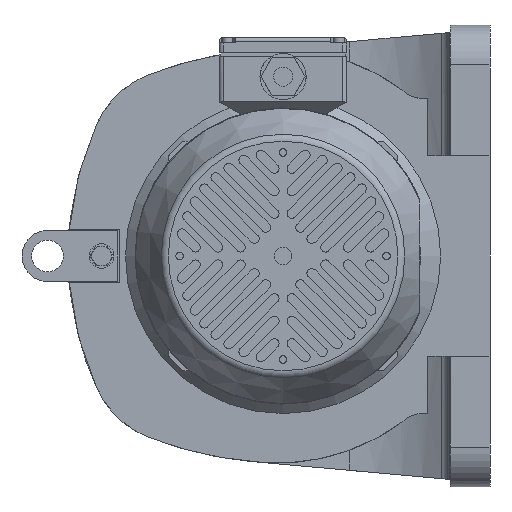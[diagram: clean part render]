
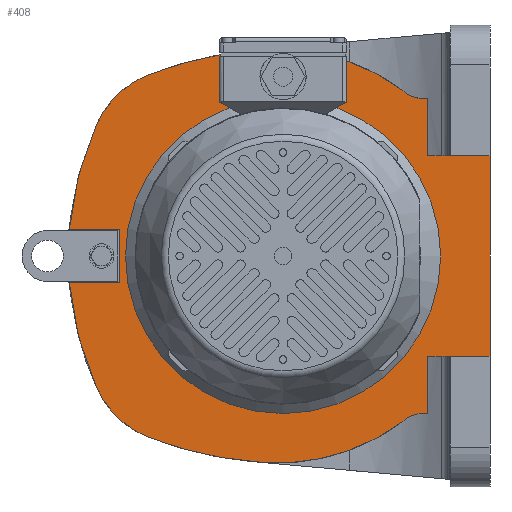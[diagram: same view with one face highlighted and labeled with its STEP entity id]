
A CAD part, left-side view. The second image highlights one B-rep face of the part: STEP entity #408.
In plain terms, the highlighted planar face has unit normal (-1, 0, 0).
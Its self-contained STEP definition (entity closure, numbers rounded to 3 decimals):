
#408 = ADVANCED_FACE( '', ( #1312 ), #1313, .F. );
#1312 = FACE_OUTER_BOUND( '', #3069, .T. );
#1313 = PLANE( '', #3070 );
#3069 = EDGE_LOOP( '', ( #5250, #5251, #5252, #5253, #5254, #5255, #5256, #5257, #5258, #5259, #5260, #5261, #5262, #5263, #5264, #5265 ) );
#3070 = AXIS2_PLACEMENT_3D( '', #5266, #5267, #5268 );
#5250 = ORIENTED_EDGE( '', *, *, #11708, .F. );
#5251 = ORIENTED_EDGE( '', *, *, #11904, .F. );
#5252 = ORIENTED_EDGE( '', *, *, #11911, .F. );
#5253 = ORIENTED_EDGE( '', *, *, #11906, .F. );
#5254 = ORIENTED_EDGE( '', *, *, #11912, .F. );
#5255 = ORIENTED_EDGE( '', *, *, #11913, .F. );
#5256 = ORIENTED_EDGE( '', *, *, #11717, .T. );
#5257 = ORIENTED_EDGE( '', *, *, #11722, .F. );
#5258 = ORIENTED_EDGE( '', *, *, #11733, .F. );
#5259 = ORIENTED_EDGE( '', *, *, #11730, .F. );
#5260 = ORIENTED_EDGE( '', *, *, #11727, .F. );
#5261 = ORIENTED_EDGE( '', *, *, #11914, .F. );
#5262 = ORIENTED_EDGE( '', *, *, #11915, .F. );
#5263 = ORIENTED_EDGE( '', *, *, #11703, .F. );
#5264 = ORIENTED_EDGE( '', *, *, #11916, .T. );
#5265 = ORIENTED_EDGE( '', *, *, #11917, .F. );
#5266 = CARTESIAN_POINT( '', ( -154., -41., -105. ) );
#5267 = DIRECTION( '', ( 1., 0., 0. ) );
#5268 = DIRECTION( '', ( 0., 0., -1. ) );
#11703 = EDGE_CURVE( '', #13920, #13922, #13923, .T. );
#11708 = EDGE_CURVE( '', #13929, #13932, #13933, .T. );
#11717 = EDGE_CURVE( '', #13943, #13947, #13949, .T. );
#11722 = EDGE_CURVE( '', #13956, #13947, #13958, .T. );
#11727 = EDGE_CURVE( '', #13966, #13968, #13969, .T. );
#11730 = EDGE_CURVE( '', #13968, #13973, #13974, .T. );
#11733 = EDGE_CURVE( '', #13973, #13956, #13978, .T. );
#11904 = EDGE_CURVE( '', #14283, #13929, #14285, .T. );
#11906 = EDGE_CURVE( '', #14287, #14288, #14289, .T. );
#11911 = EDGE_CURVE( '', #14288, #14283, #14296, .T. );
#11912 = EDGE_CURVE( '', #14297, #14287, #14298, .T. );
#11913 = EDGE_CURVE( '', #13943, #14297, #14299, .T. );
#11914 = EDGE_CURVE( '', #14300, #13966, #14301, .T. );
#11915 = EDGE_CURVE( '', #13922, #14300, #14302, .T. );
#11916 = EDGE_CURVE( '', #13920, #14303, #14304, .T. );
#11917 = EDGE_CURVE( '', #13932, #14303, #14305, .T. );
#13920 = VERTEX_POINT( '', #17628 );
#13922 = VERTEX_POINT( '', #17631 );
#13923 = CIRCLE( '', #17632, 130. );
#13929 = VERTEX_POINT( '', #17646 );
#13932 = VERTEX_POINT( '', #17649 );
#13933 = LINE( '', #17650, #17651 );
#13943 = VERTEX_POINT( '', #17674 );
#13947 = VERTEX_POINT( '', #17690 );
#13949 = CIRCLE( '', #17693, 20. );
#13956 = VERTEX_POINT( '', #17718 );
#13958 = CIRCLE( '', #17721, 130. );
#13966 = VERTEX_POINT( '', #17733 );
#13968 = VERTEX_POINT( '', #17736 );
#13969 = CIRCLE( '', #17737, 200. );
#13973 = VERTEX_POINT( '', #17765 );
#13974 = CIRCLE( '', #17766, 60. );
#13978 = CIRCLE( '', #17788, 235. );
#14283 = VERTEX_POINT( '', #18270 );
#14285 = LINE( '', #18273, #18274 );
#14287 = VERTEX_POINT( '', #18276 );
#14288 = VERTEX_POINT( '', #18277 );
#14289 = LINE( '', #18278, #18279 );
#14296 = LINE( '', #18288, #18289 );
#14297 = VERTEX_POINT( '', #18290 );
#14298 = LINE( '', #18291, #18292 );
#14299 = LINE( '', #18293, #18294 );
#14300 = VERTEX_POINT( '', #18295 );
#14301 = CIRCLE( '', #18296, 60. );
#14302 = CIRCLE( '', #18297, 235. );
#14303 = VERTEX_POINT( '', #18298 );
#14304 = CIRCLE( '', #18299, 20. );
#14305 = LINE( '', #18300, #18301 );
#17628 = CARTESIAN_POINT( '', ( -154., -114.365, -104.473 ) );
#17631 = CARTESIAN_POINT( '', ( -154., -25.409, -129.482 ) );
#17632 = AXIS2_PLACEMENT_3D( '', #23650, #23651, #23652 );
#17646 = CARTESIAN_POINT( '', ( -154., -130.945, -62.9 ) );
#17649 = CARTESIAN_POINT( '', ( -154., -130.945, -99. ) );
#17650 = CARTESIAN_POINT( '', ( -154., -130.945, 142.365 ) );
#17651 = VECTOR( '', #23660, 1000. );
#17674 = CARTESIAN_POINT( '', ( -154., -125.499, 99. ) );
#17690 = CARTESIAN_POINT( '', ( -154., -114.365, 104.473 ) );
#17693 = AXIS2_PLACEMENT_3D( '', #23671, #23672, #23673 );
#17718 = CARTESIAN_POINT( '', ( -154., -25.409, 129.482 ) );
#17721 = AXIS2_PLACEMENT_3D( '', #23678, #23679, #23680 );
#17733 = CARTESIAN_POINT( '', ( -154., 77.389, -82.061 ) );
#17736 = CARTESIAN_POINT( '', ( -154., 77.389, 82.061 ) );
#17737 = AXIS2_PLACEMENT_3D( '', #23686, #23687, #23688 );
#17765 = CARTESIAN_POINT( '', ( -154., 45.792, 113.385 ) );
#17766 = AXIS2_PLACEMENT_3D( '', #23690, #23691, #23692 );
#17788 = AXIS2_PLACEMENT_3D( '', #23694, #23695, #23696 );
#18270 = CARTESIAN_POINT( '', ( -154., -170., -62.9 ) );
#18273 = CARTESIAN_POINT( '', ( -154., -170., -62.9 ) );
#18274 = VECTOR( '', #23960, 1000. );
#18276 = CARTESIAN_POINT( '', ( -154., -130.945, 62.9 ) );
#18277 = CARTESIAN_POINT( '', ( -154., -170., 62.9 ) );
#18278 = CARTESIAN_POINT( '', ( -154., 0., 62.9 ) );
#18279 = VECTOR( '', #23964, 1000. );
#18288 = CARTESIAN_POINT( '', ( -154., -170., 62.9 ) );
#18289 = VECTOR( '', #23973, 1000. );
#18290 = CARTESIAN_POINT( '', ( -154., -130.945, 99. ) );
#18291 = CARTESIAN_POINT( '', ( -154., -130.945, 142.365 ) );
#18292 = VECTOR( '', #23974, 1000. );
#18293 = CARTESIAN_POINT( '', ( -154., -125.499, 99. ) );
#18294 = VECTOR( '', #23975, 1000. );
#18295 = CARTESIAN_POINT( '', ( -154., 45.792, -113.385 ) );
#18296 = AXIS2_PLACEMENT_3D( '', #23976, #23977, #23978 );
#18297 = AXIS2_PLACEMENT_3D( '', #23979, #23980, #23981 );
#18298 = CARTESIAN_POINT( '', ( -154., -125.499, -99. ) );
#18299 = AXIS2_PLACEMENT_3D( '', #23982, #23983, #23984 );
#18300 = CARTESIAN_POINT( '', ( -154., -167., -99. ) );
#18301 = VECTOR( '', #23985, 1000. );
#23650 = CARTESIAN_POINT( '', ( -154., -37., 0. ) );
#23651 = DIRECTION( '', ( 1., 0., 0. ) );
#23652 = DIRECTION( '', ( 0., 0., -1. ) );
#23660 = DIRECTION( '', ( 0., 0., -1. ) );
#23671 = CARTESIAN_POINT( '', ( -154., -128.32, 118.8 ) );
#23672 = DIRECTION( '', ( 1., 0., 0. ) );
#23673 = DIRECTION( '', ( 0., 0., -1. ) );
#23678 = CARTESIAN_POINT( '', ( -154., -37., 0. ) );
#23679 = DIRECTION( '', ( 1., 0., 0. ) );
#23680 = DIRECTION( '', ( 0., 0., -1. ) );
#23686 = CARTESIAN_POINT( '', ( -154., -105., 0. ) );
#23687 = DIRECTION( '', ( 1., 0., 0. ) );
#23688 = DIRECTION( '', ( 0., 0., -1. ) );
#23690 = CARTESIAN_POINT( '', ( -154., 22.36, 58.15 ) );
#23691 = DIRECTION( '', ( 1., 0., 0. ) );
#23692 = DIRECTION( '', ( 0., 0., -1. ) );
#23694 = CARTESIAN_POINT( '', ( -154., -41., -105. ) );
#23695 = DIRECTION( '', ( 1., 0., 0. ) );
#23696 = DIRECTION( '', ( 0., 0., -1. ) );
#23960 = DIRECTION( '', ( 0., 1., 0. ) );
#23964 = DIRECTION( '', ( 0., -1., 0. ) );
#23973 = DIRECTION( '', ( 0., 0., -1. ) );
#23974 = DIRECTION( '', ( 0., 0., -1. ) );
#23975 = DIRECTION( '', ( 0., -1., 0. ) );
#23976 = CARTESIAN_POINT( '', ( -154., 22.36, -58.15 ) );
#23977 = DIRECTION( '', ( 1., 0., 0. ) );
#23978 = DIRECTION( '', ( 0., 0., -1. ) );
#23979 = CARTESIAN_POINT( '', ( -154., -41., 105. ) );
#23980 = DIRECTION( '', ( 1., 0., 0. ) );
#23981 = DIRECTION( '', ( 0., 0., -1. ) );
#23982 = CARTESIAN_POINT( '', ( -154., -128.32, -118.8 ) );
#23983 = DIRECTION( '', ( 1., 0., 0. ) );
#23984 = DIRECTION( '', ( 0., 0., -1. ) );
#23985 = DIRECTION( '', ( 0., 1., 0. ) );
